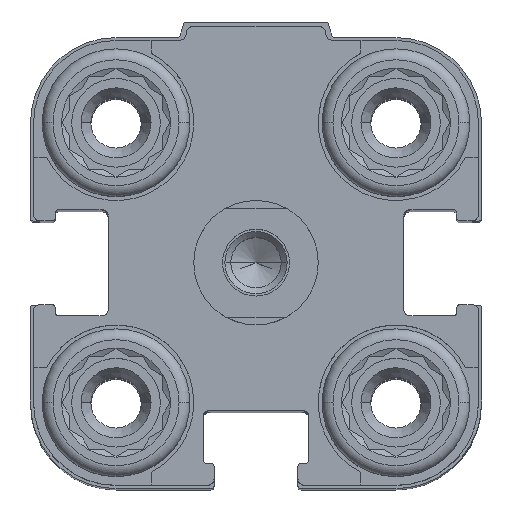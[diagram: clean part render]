
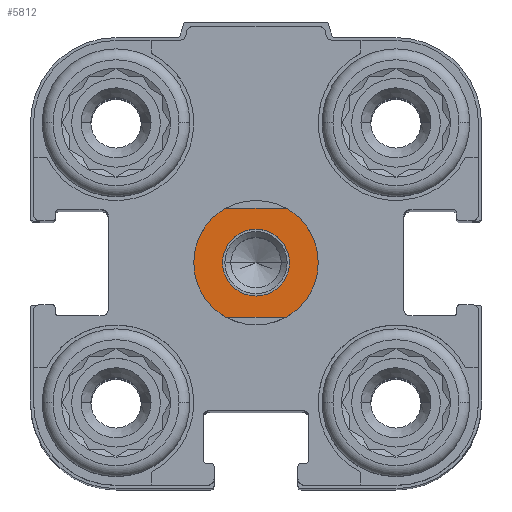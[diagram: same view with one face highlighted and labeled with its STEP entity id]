
A CAD part, top view. The second image highlights one B-rep face of the part: STEP entity #5812.
In plain terms, the highlighted planar face has unit normal (0, 0, 1).
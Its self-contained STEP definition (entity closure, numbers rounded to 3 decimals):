
#428 = DIRECTION ( 'NONE',  ( 0., 0., -1. ) ) ;
#1153 = ORIENTED_EDGE ( 'NONE', *, *, #14970, .T. ) ;
#1634 = CIRCLE ( 'NONE', #13140, 4. ) ;
#2076 = AXIS2_PLACEMENT_3D ( 'NONE', #16933, #428, #14170 ) ;
#2113 = ORIENTED_EDGE ( 'NONE', *, *, #15431, .T. ) ;
#2496 = EDGE_CURVE ( 'NONE', #11969, #15925, #1634, .T. ) ;
#2660 = CARTESIAN_POINT ( 'NONE',  ( 0., 0., 4.5 ) ) ;
#3178 = CARTESIAN_POINT ( 'NONE',  ( -1.936, 3.5, 4.5 ) ) ;
#3520 = VERTEX_POINT ( 'NONE', #6464 ) ;
#3916 = DIRECTION ( 'NONE',  ( -1., 0., 0. ) ) ;
#3934 = DIRECTION ( 'NONE',  ( 0., 0., -1. ) ) ;
#4955 = LINE ( 'NONE', #11906, #6328 ) ;
#5269 = DIRECTION ( 'NONE',  ( 0., 0., -1. ) ) ;
#5282 = AXIS2_PLACEMENT_3D ( 'NONE', #17659, #5269, #3916 ) ;
#5446 = DIRECTION ( 'NONE',  ( 0., 0., -1. ) ) ;
#5555 = CIRCLE ( 'NONE', #2076, 4. ) ;
#5792 = AXIS2_PLACEMENT_3D ( 'NONE', #7653, #10723, #7836 ) ;
#5812 = ADVANCED_FACE ( 'NONE', ( #11991, #17238 ), #13333, .F. ) ;
#5967 = ORIENTED_EDGE ( 'NONE', *, *, #11999, .F. ) ;
#5977 = ORIENTED_EDGE ( 'NONE', *, *, #11121, .F. ) ;
#6087 = VECTOR ( 'NONE', #12263, 1000. ) ;
#6209 = CARTESIAN_POINT ( 'NONE',  ( -2.15, 0., 4.5 ) ) ;
#6328 = VECTOR ( 'NONE', #9188, 1000. ) ;
#6434 = CIRCLE ( 'NONE', #13066, 4. ) ;
#6455 = VERTEX_POINT ( 'NONE', #12831 ) ;
#6459 = EDGE_CURVE ( 'NONE', #12968, #3520, #5555, .T. ) ;
#6464 = CARTESIAN_POINT ( 'NONE',  ( 4., 0., 4.5 ) ) ;
#6518 = CIRCLE ( 'NONE', #16280, 2.15 ) ;
#7073 = EDGE_LOOP ( 'NONE', ( #2113, #1153 ) ) ;
#7347 = DIRECTION ( 'NONE',  ( -1., 0., 0. ) ) ;
#7653 = CARTESIAN_POINT ( 'NONE',  ( 0., 0., 4.5 ) ) ;
#7836 = DIRECTION ( 'NONE',  ( 0., 1., 0. ) ) ;
#7846 = CARTESIAN_POINT ( 'NONE',  ( -4., 0., 4.5 ) ) ;
#8235 = EDGE_LOOP ( 'NONE', ( #10098, #10077, #15726, #5967, #5977, #11143 ) ) ;
#8294 = EDGE_CURVE ( 'NONE', #15925, #12710, #6434, .T. ) ;
#8356 = CARTESIAN_POINT ( 'NONE',  ( 0., 0., 4.5 ) ) ;
#9188 = DIRECTION ( 'NONE',  ( -1., 0., 0. ) ) ;
#9535 = DIRECTION ( 'NONE',  ( 0., 0., -1. ) ) ;
#9648 = CARTESIAN_POINT ( 'NONE',  ( -7., 3.5, 4.5 ) ) ;
#9907 = LINE ( 'NONE', #9648, #6087 ) ;
#10077 = ORIENTED_EDGE ( 'NONE', *, *, #8294, .F. ) ;
#10098 = ORIENTED_EDGE ( 'NONE', *, *, #13264, .F. ) ;
#10723 = DIRECTION ( 'NONE',  ( 0., 0., -1. ) ) ;
#10875 = DIRECTION ( 'NONE',  ( -1., 0., 0. ) ) ;
#11121 = EDGE_CURVE ( 'NONE', #3520, #6455, #14157, .T. ) ;
#11143 = ORIENTED_EDGE ( 'NONE', *, *, #6459, .F. ) ;
#11859 = VERTEX_POINT ( 'NONE', #6209 ) ;
#11906 = CARTESIAN_POINT ( 'NONE',  ( 7., -3.5, 4.5 ) ) ;
#11969 = VERTEX_POINT ( 'NONE', #12080 ) ;
#11991 = FACE_OUTER_BOUND ( 'NONE', #8235, .T. ) ;
#11999 = EDGE_CURVE ( 'NONE', #6455, #11969, #4955, .T. ) ;
#12080 = CARTESIAN_POINT ( 'NONE',  ( -1.936, -3.5, 4.5 ) ) ;
#12263 = DIRECTION ( 'NONE',  ( 1., 0., 0. ) ) ;
#12710 = VERTEX_POINT ( 'NONE', #3178 ) ;
#12771 = VERTEX_POINT ( 'NONE', #17732 ) ;
#12831 = CARTESIAN_POINT ( 'NONE',  ( 1.936, -3.5, 4.5 ) ) ;
#12968 = VERTEX_POINT ( 'NONE', #13710 ) ;
#13066 = AXIS2_PLACEMENT_3D ( 'NONE', #16638, #5446, #16557 ) ;
#13108 = CARTESIAN_POINT ( 'NONE',  ( 0., 0., 4.5 ) ) ;
#13140 = AXIS2_PLACEMENT_3D ( 'NONE', #2660, #3934, #10875 ) ;
#13264 = EDGE_CURVE ( 'NONE', #12710, #12968, #9907, .T. ) ;
#13333 = PLANE ( 'NONE',  #5792 ) ;
#13710 = CARTESIAN_POINT ( 'NONE',  ( 1.936, 3.5, 4.5 ) ) ;
#13834 = DIRECTION ( 'NONE',  ( -1., 0., 0. ) ) ;
#14157 = CIRCLE ( 'NONE', #5282, 4. ) ;
#14170 = DIRECTION ( 'NONE',  ( -1., 0., 0. ) ) ;
#14534 = AXIS2_PLACEMENT_3D ( 'NONE', #8356, #9535, #13834 ) ;
#14970 = EDGE_CURVE ( 'NONE', #12771, #11859, #17108, .T. ) ;
#15431 = EDGE_CURVE ( 'NONE', #11859, #12771, #6518, .T. ) ;
#15726 = ORIENTED_EDGE ( 'NONE', *, *, #2496, .F. ) ;
#15925 = VERTEX_POINT ( 'NONE', #7846 ) ;
#16280 = AXIS2_PLACEMENT_3D ( 'NONE', #13108, #17034, #7347 ) ;
#16557 = DIRECTION ( 'NONE',  ( -1., 0., 0. ) ) ;
#16638 = CARTESIAN_POINT ( 'NONE',  ( 0., 0., 4.5 ) ) ;
#16933 = CARTESIAN_POINT ( 'NONE',  ( 0., 0., 4.5 ) ) ;
#17034 = DIRECTION ( 'NONE',  ( 0., 0., -1. ) ) ;
#17108 = CIRCLE ( 'NONE', #14534, 2.15 ) ;
#17238 = FACE_BOUND ( 'NONE', #7073, .T. ) ;
#17659 = CARTESIAN_POINT ( 'NONE',  ( 0., 0., 4.5 ) ) ;
#17732 = CARTESIAN_POINT ( 'NONE',  ( 2.15, 0., 4.5 ) ) ;
